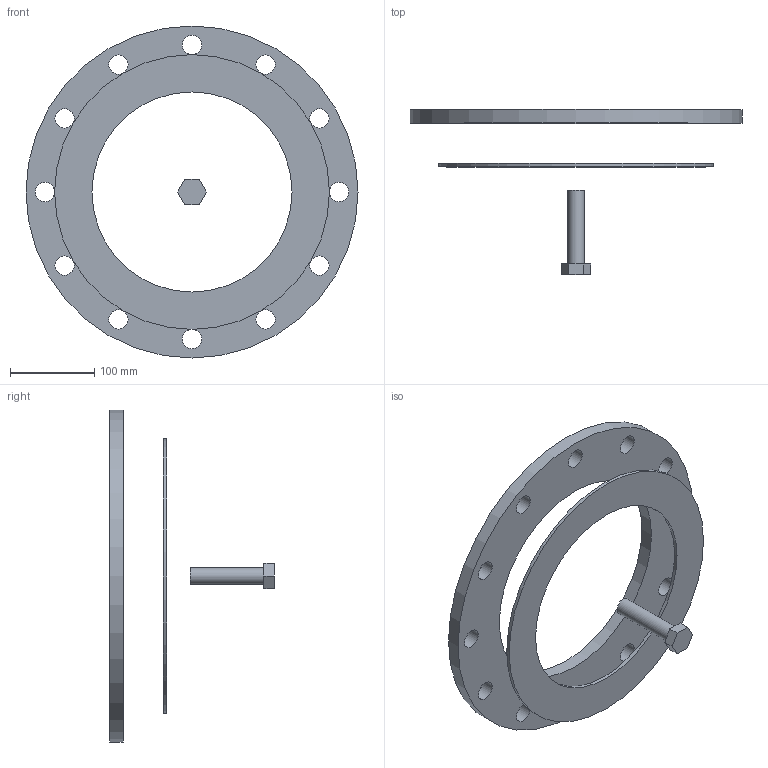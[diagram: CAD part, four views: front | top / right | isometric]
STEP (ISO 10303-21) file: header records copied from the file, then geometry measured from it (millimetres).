
FILE_DESCRIPTION( ( 'STEP AP214' ), '1' );
FILE_NAME( 'C:/Users/ilukic/Documents/ex/gebaudeentwasserung/pe/Geberit PE flange set/371746.stp', '2020-03-26T18:42:22', ( '' ), ( '' ), ' ', 'PARTsolutions', ' ' );
FILE_SCHEMA( ( 'AUTOMOTIVE_DESIGN { 1 0 10303 214 1 1 1 1 }' ) );
Length unit declared in the file: millimetre
Products named in the file (4): 371746; _371746_flange1; _371746_flange2; _371746_bolt
Assembly tree (3 placements, depth 2):
  371746
    _371746_flange1
    _371746_flange2
    _371746_bolt
Bounding box: 395 x 196 x 395 mm (x, y, z)
Volume: 1252553.7 mm3; surface area: 273207.6 mm2
Topology: 3 solids, 3 shells, 30 faces, 69 edges, 46 vertices
Faces by surface type: cylinder 17, plane 13
Full cylindrical faces by diameter (mm): 20 x1, 23 x12, 238 x1, 256 x1, 327 x1, 395 x1
Entity records: 1148 total; most frequent: DIRECTION 154, CARTESIAN_POINT 132, ORIENTED_EDGE 104, EDGE_LOOP 76, AXIS2_PLACEMENT_3D 68, EDGE_CURVE 52, FACE_OUTER_BOUND 47, VERTEX_POINT 46
